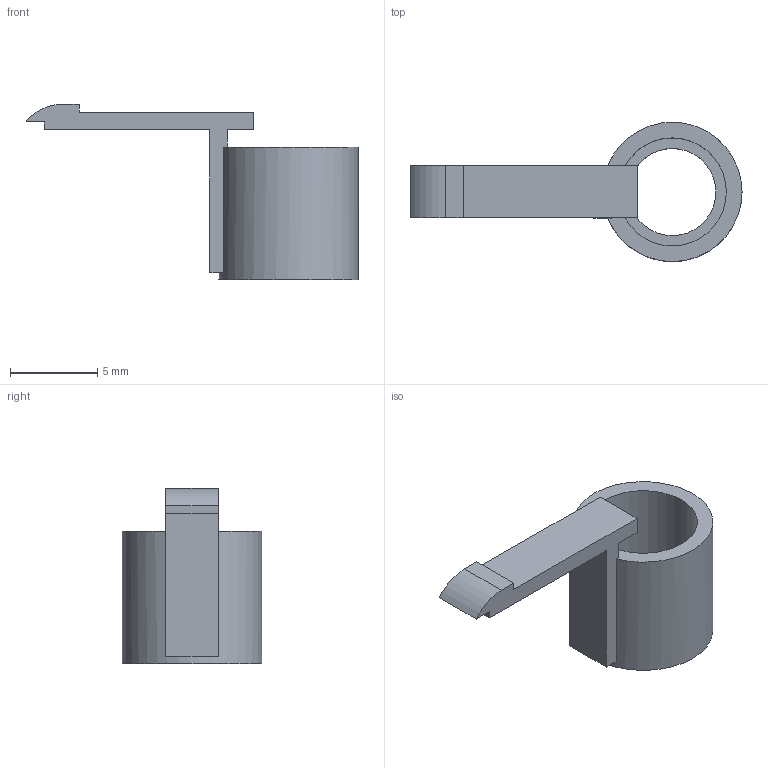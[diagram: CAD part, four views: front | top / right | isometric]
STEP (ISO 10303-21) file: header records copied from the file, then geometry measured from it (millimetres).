
FILE_DESCRIPTION(('Open CASCADE Model'),'2;1');
FILE_NAME('Open CASCADE Shape Model','2026-09-06T11:30:36',('Author'),( 'Open CASCADE'),'Open CASCADE STEP processor 7.7','Open CASCADE 7.7' ,'Unknown');
FILE_SCHEMA(('AUTOMOTIVE_DESIGN { 1 0 10303 214 1 1 1 1 }'));
Length unit declared in the file: millimetre
Products named in the file (1): Open CASCADE STEP translator 7.7 16
Bounding box: 19.05 x 8 x 10.05 mm (x, y, z)
Volume: 216.9 mm3; surface area: 525.3 mm2
Topology: 1 solids, 1 shells, 20 faces, 51 edges, 34 vertices
Faces by surface type: plane 16, cylinder 4
Full cylindrical faces by diameter (mm): 5 x1, 6.2 x1, 8 x1
Entity records: 1296 total; most frequent: CARTESIAN_POINT 239, DIRECTION 199, LINE 132, VECTOR 132, ORIENTED_EDGE 102, PCURVE 102, DEFINITIONAL_REPRESENTATION 102, EDGE_CURVE 51
